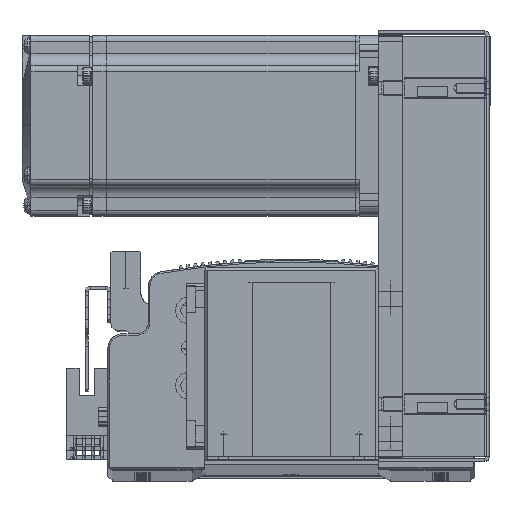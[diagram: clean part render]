
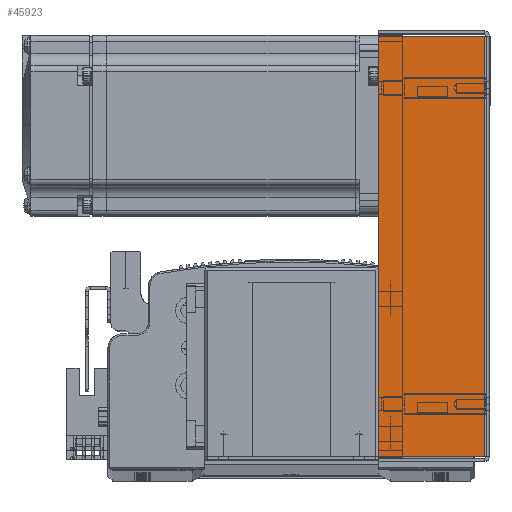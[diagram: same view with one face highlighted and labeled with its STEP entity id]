
A CAD part, top view. The second image highlights one B-rep face of the part: STEP entity #45923.
In plain terms, the highlighted planar face has unit normal (0, 0, 1) as drawn and (0, 0, -1) by its records, which use the part's own axes.
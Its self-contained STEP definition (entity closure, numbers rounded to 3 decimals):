
#11334 = EDGE_LOOP ( 'NONE', ( #89603, #89722, #89578, #89591 ) ) ;
#14677 = CARTESIAN_POINT ( 'NONE',  ( -69.793, 36., -33.5 ) ) ;
#15107 = CARTESIAN_POINT ( 'NONE',  ( -69.793, 0.737, -33.5 ) ) ;
#15203 = CARTESIAN_POINT ( 'NONE',  ( 69.793, 0.737, -33.5 ) ) ;
#16072 = CARTESIAN_POINT ( 'NONE',  ( 69.793, 36., -33.5 ) ) ;
#19436 = EDGE_CURVE ( 'NONE', #89130, #89153, #32492, .T. ) ;
#19443 = EDGE_CURVE ( 'NONE', #89067, #89115, #32509, .T. ) ;
#19477 = EDGE_CURVE ( 'NONE', #89067, #89130, #32522, .T. ) ;
#19487 = EDGE_CURVE ( 'NONE', #89115, #89153, #32596, .T. ) ;
#22425 = FACE_OUTER_BOUND ( 'NONE', #11334, .T. ) ;
#32492 = LINE ( 'NONE', #92071, #32493 ) ;
#32493 = VECTOR ( 'NONE', #92063, 1000. ) ;
#32509 = LINE ( 'NONE', #92120, #32510 ) ;
#32510 = VECTOR ( 'NONE', #92121, 1000. ) ;
#32522 = LINE ( 'NONE', #92199, #32545 ) ;
#32545 = VECTOR ( 'NONE', #92231, 1000. ) ;
#32596 = LINE ( 'NONE', #92249, #32597 ) ;
#32597 = VECTOR ( 'NONE', #92268, 1000. ) ;
#45923 = ADVANCED_FACE ( 'NONE', ( #22425 ), #53040, .F. ) ;
#53040 = PLANE ( 'NONE',  #79010 ) ;
#53049 = CARTESIAN_POINT ( 'NONE',  ( 0., 0., -33.5 ) ) ;
#53052 = DIRECTION ( 'NONE',  ( 0., 0., 1. ) ) ;
#53067 = DIRECTION ( 'NONE',  ( 0., -1., 0. ) ) ;
#79010 = AXIS2_PLACEMENT_3D ( 'NONE', #53049, #53052, #53067 ) ;
#89067 = VERTEX_POINT ( 'NONE', #15107 ) ;
#89115 = VERTEX_POINT ( 'NONE', #14677 ) ;
#89130 = VERTEX_POINT ( 'NONE', #15203 ) ;
#89153 = VERTEX_POINT ( 'NONE', #16072 ) ;
#89578 = ORIENTED_EDGE ( 'NONE', *, *, #19487, .T. ) ;
#89591 = ORIENTED_EDGE ( 'NONE', *, *, #19436, .F. ) ;
#89603 = ORIENTED_EDGE ( 'NONE', *, *, #19477, .F. ) ;
#89722 = ORIENTED_EDGE ( 'NONE', *, *, #19443, .T. ) ;
#92063 = DIRECTION ( 'NONE',  ( 0., 1., 0. ) ) ;
#92071 = CARTESIAN_POINT ( 'NONE',  ( 69.793, 0., -33.5 ) ) ;
#92120 = CARTESIAN_POINT ( 'NONE',  ( -69.793, 0., -33.5 ) ) ;
#92121 = DIRECTION ( 'NONE',  ( 0., 1., 0. ) ) ;
#92199 = CARTESIAN_POINT ( 'NONE',  ( 71.5, 0.737, -33.5 ) ) ;
#92231 = DIRECTION ( 'NONE',  ( 1., 0., 0. ) ) ;
#92249 = CARTESIAN_POINT ( 'NONE',  ( 0., 36., -33.5 ) ) ;
#92268 = DIRECTION ( 'NONE',  ( 1., 0., 0. ) ) ;
